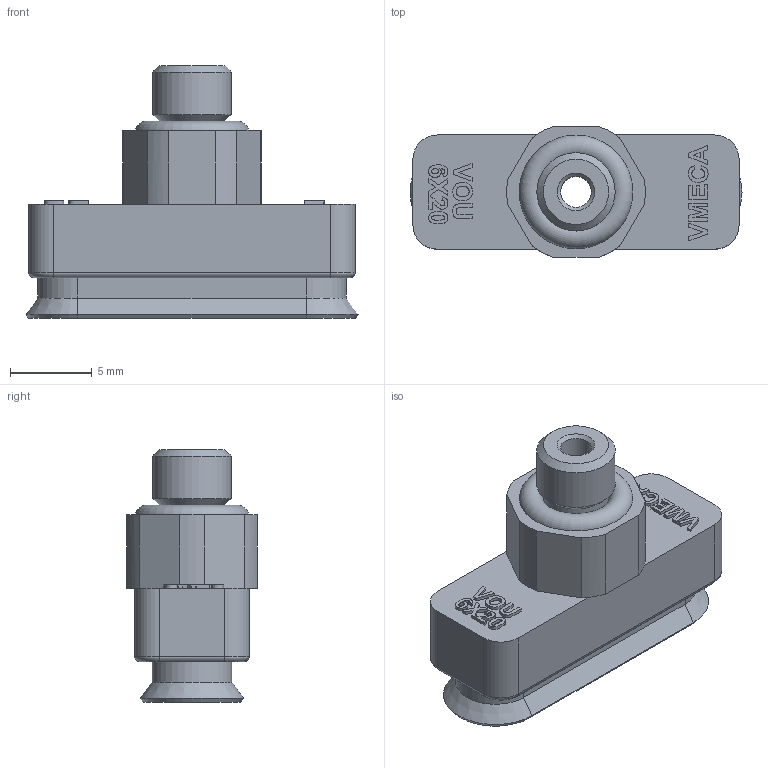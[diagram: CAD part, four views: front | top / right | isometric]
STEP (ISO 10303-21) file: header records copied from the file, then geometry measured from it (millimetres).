
FILE_DESCRIPTION( ( 'Unknown' ), '1' );
FILE_NAME( 'D:/New PAD/PAD-VOU/Part/STEP/VOU 6X20_M5M.stp', 'Unknown', ( 'Unknown' ), ( 'Unknown' ), 'XStep 1.0', 'Unknown', ' ' );
FILE_SCHEMA( ( 'automotive_design' ) );
Length unit declared in the file: millimetre
Products named in the file (1): Fitting-M5M VOU
Bounding box: 20.35 x 8 x 15.5 mm (x, y, z)
Volume: 1133.9 mm3; surface area: 955 mm2
Topology: 1 solids, 1 shells, 158 faces, 385 edges, 249 vertices
Faces by surface type: extrusion 84, plane 42, cylinder 20, cone 7, torus 5
Full cylindrical faces by diameter (mm): 1.9 x1, 3 x1, 4 x1, 4.8 x1
Entity records: 6625 total; most frequent: CARTESIAN_POINT 1826, ORIENTED_EDGE 742, DIRECTION 564, EDGE_CURVE 371, VECTOR 302, VERTEX_POINT 248, LINE 218, EDGE_LOOP 193
